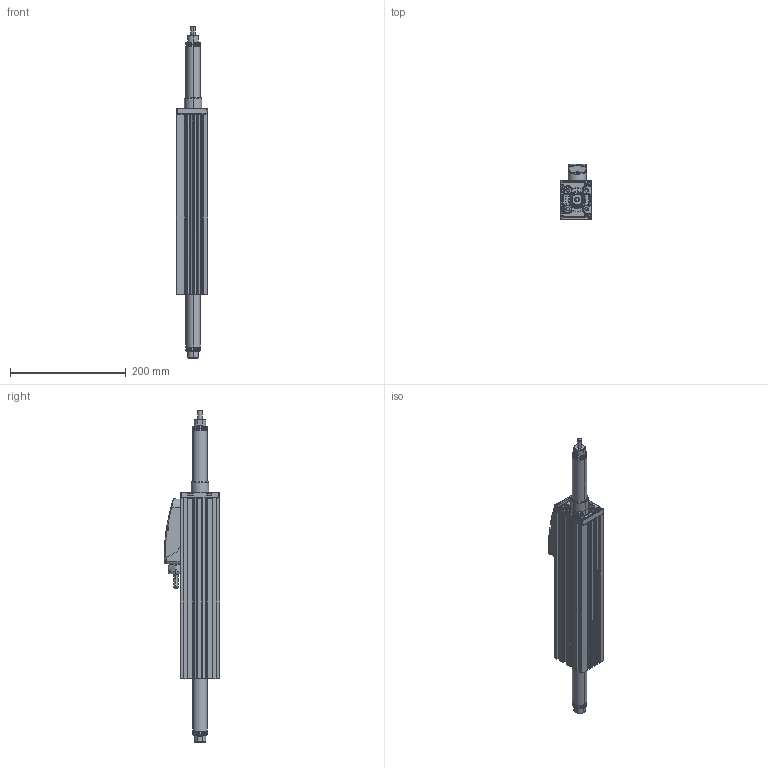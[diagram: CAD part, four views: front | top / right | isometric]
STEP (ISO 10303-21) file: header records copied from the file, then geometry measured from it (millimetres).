
FILE_DESCRIPTION (( 'STEP AP203' ), '1' );
FILE_NAME ('STA2510-181.STEP', '2011-10-13T14:18:42', ( 'showsden' ), ( '' ), 'SwSTEP 2.0', 'SolidWorks 2011', '' );
FILE_SCHEMA (( 'CONFIG_CONTROL_DESIGN' ));
Products named in the file (14): SIGNAL CABLE_FLEXING (SIGNAL); ST25 POD (DLS)_ST25 POD (SOLID); Screw, Cap Head, M2.5_Screw, Cap Head, M2.5 x 6; PG16 Gland Nut (REV2)_PG16 (REV 2); Screw, Button Head, M3_Screw, Button Head, M3 x 10; STA2510-181; TRA25 Thrust Rod - Solid_TRA2510 (181); Screw, Cap Head, M4_Screw, Cap Head, M4 x 16; STA25 Bearing End Support - Solid_MP02261; STA25 MOTOR HOUSING (REV-B)_STA2510; ST25 POD ASSEMBLY (DLS)_ST25 POD ASSEMBLY (SOLID); MP02254-D ST25 Pod Base Gasket_MP02254; ST25 CABLE ASSEMBLY (REV2)_MA02197 (FLEXING); POWER CABLE_FLEXING (POWER)
Assembly tree (20 placements, depth 4):
  STA2510-181
    STA25 MOTOR HOUSING (REV-B)_STA2510
    Screw, Cap Head, M4_Screw, Cap Head, M4 x 16  x4
    STA25 Bearing End Support - Solid_MP02261
    ST25 POD ASSEMBLY (DLS)_ST25 POD ASSEMBLY (SOLID)
      MP02254-D ST25 Pod Base Gasket_MP02254
      Screw, Button Head, M3_Screw, Button Head, M3 x 10  x4
      ST25 POD (DLS)_ST25 POD (SOLID)
      Screw, Cap Head, M2.5_Screw, Cap Head, M2.5 x 6  x2
      ST25 CABLE ASSEMBLY (REV2)_MA02197 (FLEXING)
        SIGNAL CABLE_FLEXING (SIGNAL)
        POWER CABLE_FLEXING (POWER)
        PG16 Gland Nut (REV2)_PG16 (REV 2)
    TRA25 Thrust Rod - Solid_TRA2510 (181)
Bounding box: 54 x 95.5 x 574 mm (x, y, z)
Volume: 1169047.8 mm3; surface area: 278932.2 mm2
Topology: 18 solids, 18 shells, 1636 faces, 4226 edges, 2687 vertices
Faces by surface type: plane 567, cylinder 516, bspline 365, cone 116, torus 56, sphere 16
Entity records: 75343 total; most frequent: CARTESIAN_POINT 39247, ORIENTED_EDGE 7888, DIRECTION 6221, EDGE_CURVE 3944, VERTEX_POINT 2531, AXIS2_PLACEMENT_3D 2326, EDGE_LOOP 1659, LINE 1569
